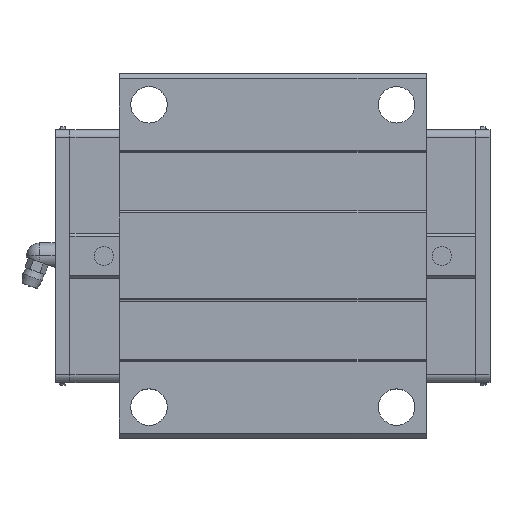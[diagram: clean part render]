
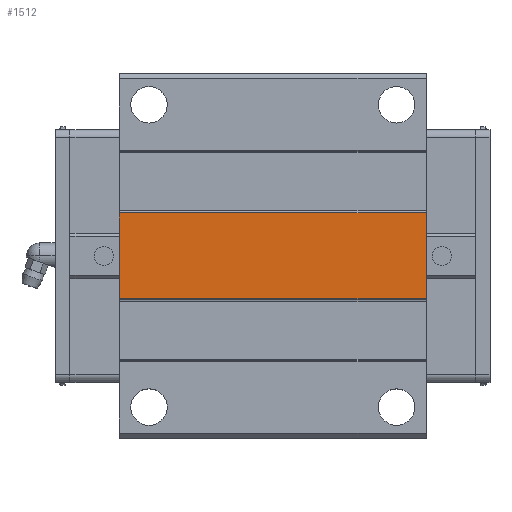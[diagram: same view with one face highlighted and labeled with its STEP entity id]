
A CAD part, top view. The second image highlights one B-rep face of the part: STEP entity #1512.
In plain terms, the highlighted planar face has unit normal (0, 0, 1).
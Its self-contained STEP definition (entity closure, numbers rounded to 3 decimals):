
#1451=CARTESIAN_POINT('POINT102',(142.2,-16.5,
   57.));
#1452=VERTEX_POINT('VERTEX102',#1451);
#1459=CARTESIAN_POINT('POINT103',(24.5,-16.5,
   57.));
#1460=VERTEX_POINT('VERTEX103',#1459);
#1461=CARTESIAN_POINT('POS147',(24.5,-16.5,
   57.));
#1462=DIRECTION('DIR209',(1.,0.,0.));
#1463=VECTOR('VEC85',#1462,1.);
#1464=LINE('STRAIGHT85',#1461,#1463);
#1465=EDGE_CURVE('EDGE139',#1460,#1452,#1464,.T.);
#1482=CARTESIAN_POINT('POINT104',(142.2,16.5,57.));
#1483=VERTEX_POINT('VERTEX104',#1482);
#1484=CARTESIAN_POINT('POS150',(142.2,0.,57.));
#1485=DIRECTION('DIR213',(0.,1.,0.));
#1486=VECTOR('VEC87',#1485,1.);
#1487=LINE('STRAIGHT87',#1484,#1486);
#1488=EDGE_CURVE('EDGE141',#1452,#1483,#1487,.T.);
#1489=ORIENTED_EDGE('COEDGE215',*,*,#1488,.T.);
#1490=CARTESIAN_POINT('POINT105',(24.5,16.5,57.));
#1491=VERTEX_POINT('VERTEX105',#1490);
#1492=CARTESIAN_POINT('POS151',(24.5,16.5,57.));
#1493=DIRECTION('DIR214',(1.,0.,0.));
#1494=VECTOR('VEC88',#1493,1.);
#1495=LINE('STRAIGHT88',#1492,#1494);
#1496=EDGE_CURVE('EDGE142',#1491,#1483,#1495,.T.);
#1497=ORIENTED_EDGE('COEDGE216',*,*,#1496,.F.);
#1498=CARTESIAN_POINT('POS152',(24.5,0.,57.));
#1499=DIRECTION('DIR215',(0.,1.,0.));
#1500=VECTOR('VEC89',#1499,1.);
#1501=LINE('STRAIGHT89',#1498,#1500);
#1502=EDGE_CURVE('EDGE143',#1460,#1491,#1501,.T.);
#1503=ORIENTED_EDGE('COEDGE217',*,*,#1502,.F.);
#1504=ORIENTED_EDGE('COEDGE218',*,*,#1465,.T.);
#1505=EDGE_LOOP('NONE',(#1489,#1497,#1503,#1504));
#1506=FACE_BOUND('LOOP1',#1505,.T.);
#1507=CARTESIAN_POINT('POS153',(24.5,0.,57.));
#1508=DIRECTION('DIR216',(0.,0.,1.));
#1509=DIRECTION('DIR217',(1.,0.,0.));
#1510=AXIS2_PLACEMENT_3D('AXIS64',#1507,#1508,#1509);
#1511=PLANE('PLANE18',#1510);
#1512=ADVANCED_FACE('FACE42',(#1506),#1511,.T.);
